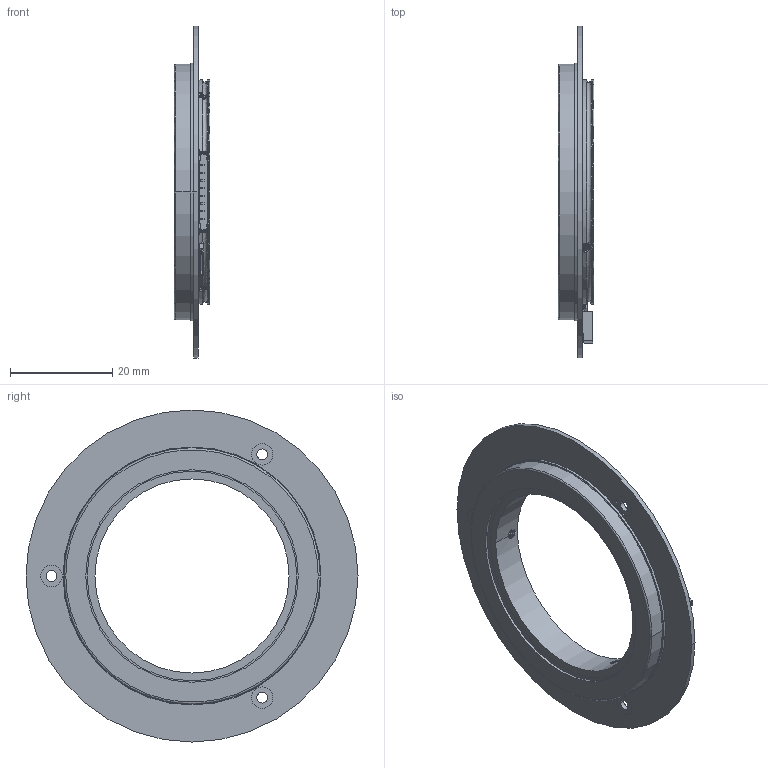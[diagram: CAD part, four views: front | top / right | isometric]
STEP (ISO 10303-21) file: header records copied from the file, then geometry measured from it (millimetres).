
FILE_DESCRIPTION (( 'STEP AP214' ), '1' );
FILE_NAME ('MBS-38-65¸üÐÂ.STEP', '2024-07-16T03:40:31', ( '' ), ( '' ), 'SwSTEP 2.0', 'SolidWorks 2016', '' );
FILE_SCHEMA (( 'AUTOMOTIVE_DESIGN' ));
Length unit declared in the file: millimetre
Products named in the file (1): MBS-38-65載陔
Bounding box: 7.01 x 65 x 65 mm (x, y, z)
Volume: 4460.1 mm3; surface area: 10303.4 mm2
Topology: 6 solids, 46 shells, 1374 faces, 3684 edges, 2411 vertices
Faces by surface type: plane 900, bspline 328, cylinder 137, cone 9
Entity records: 106873 total; most frequent: CARTESIAN_POINT 68648, ORIENTED_EDGE 7336, DIRECTION 5392, EDGE_CURVE 3668, VECTOR 2688, LINE 2688, VERTEX_POINT 2411, EDGE_LOOP 1451
